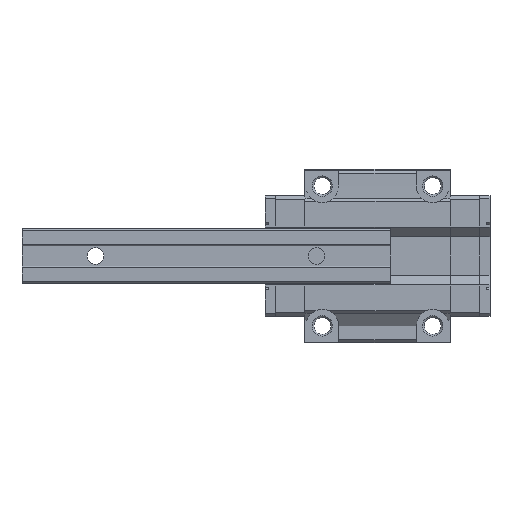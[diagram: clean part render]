
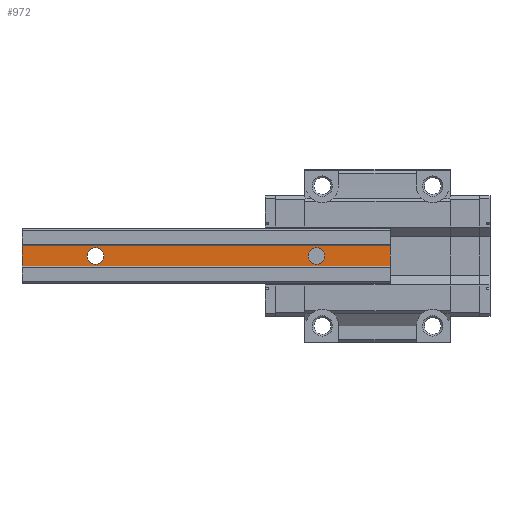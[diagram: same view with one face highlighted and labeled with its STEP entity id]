
A CAD part, front view. The second image highlights one B-rep face of the part: STEP entity #972.
In plain terms, the highlighted planar face has unit normal (0, -1, 0).
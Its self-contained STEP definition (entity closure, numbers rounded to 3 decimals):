
#972 = ADVANCED_FACE( '', ( #2159, #2160, #2161 ), #2162, .T. );
#2159 = FACE_BOUND( '', #3672, .T. );
#2160 = FACE_BOUND( '', #3673, .T. );
#2161 = FACE_OUTER_BOUND( '', #3674, .T. );
#2162 = PLANE( '', #3675 );
#3672 = EDGE_LOOP( '', ( #6014 ) );
#3673 = EDGE_LOOP( '', ( #6015 ) );
#3674 = EDGE_LOOP( '', ( #6016, #6017, #6018, #6019 ) );
#3675 = AXIS2_PLACEMENT_3D( '', #6020, #6021, #6022 );
#6014 = ORIENTED_EDGE( '', *, *, #9830, .F. );
#6015 = ORIENTED_EDGE( '', *, *, #9831, .F. );
#6016 = ORIENTED_EDGE( '', *, *, #9832, .F. );
#6017 = ORIENTED_EDGE( '', *, *, #9833, .F. );
#6018 = ORIENTED_EDGE( '', *, *, #9834, .T. );
#6019 = ORIENTED_EDGE( '', *, *, #9835, .T. );
#6020 = CARTESIAN_POINT( '', ( 50., 0.5, -2.75 ) );
#6021 = DIRECTION( '', ( 0., -1., 0. ) );
#6022 = DIRECTION( '', ( 0., 0., -1. ) );
#9830 = EDGE_CURVE( '', #12078, #12078, #12079, .T. );
#9831 = EDGE_CURVE( '', #12080, #12080, #12081, .T. );
#9832 = EDGE_CURVE( '', #12082, #12083, #12084, .T. );
#9833 = EDGE_CURVE( '', #12085, #12082, #12086, .T. );
#9834 = EDGE_CURVE( '', #12085, #12087, #12088, .T. );
#9835 = EDGE_CURVE( '', #12087, #12083, #12089, .T. );
#12078 = VERTEX_POINT( '', #15168 );
#12079 = CIRCLE( '', #15169, 2.25 );
#12080 = VERTEX_POINT( '', #15170 );
#12081 = CIRCLE( '', #15171, 2.25 );
#12082 = VERTEX_POINT( '', #15172 );
#12083 = VERTEX_POINT( '', #15173 );
#12084 = LINE( '', #15174, #15175 );
#12085 = VERTEX_POINT( '', #15176 );
#12086 = LINE( '', #15177, #15178 );
#12087 = VERTEX_POINT( '', #15179 );
#12088 = LINE( '', #15180, #15181 );
#12089 = LINE( '', #15182, #15183 );
#15168 = CARTESIAN_POINT( '', ( -30., 0.5, -2.25 ) );
#15169 = AXIS2_PLACEMENT_3D( '', #17705, #17706, #17707 );
#15170 = CARTESIAN_POINT( '', ( 30., 0.5, -2.25 ) );
#15171 = AXIS2_PLACEMENT_3D( '', #17708, #17709, #17710 );
#15172 = CARTESIAN_POINT( '', ( -50., 0.5, -2.75 ) );
#15173 = CARTESIAN_POINT( '', ( -50., 0.5, 2.75 ) );
#15174 = CARTESIAN_POINT( '', ( -50., 0.5, -2.75 ) );
#15175 = VECTOR( '', #17711, 1000. );
#15176 = CARTESIAN_POINT( '', ( 50., 0.5, -2.75 ) );
#15177 = CARTESIAN_POINT( '', ( 50., 0.5, -2.75 ) );
#15178 = VECTOR( '', #17712, 1000. );
#15179 = CARTESIAN_POINT( '', ( 50., 0.5, 2.75 ) );
#15180 = CARTESIAN_POINT( '', ( 50., 0.5, -2.75 ) );
#15181 = VECTOR( '', #17713, 1000. );
#15182 = CARTESIAN_POINT( '', ( 50., 0.5, 2.75 ) );
#15183 = VECTOR( '', #17714, 1000. );
#17705 = CARTESIAN_POINT( '', ( -30., 0.5, 0. ) );
#17706 = DIRECTION( '', ( 0., -1., 0. ) );
#17707 = DIRECTION( '', ( 0., 0., -1. ) );
#17708 = CARTESIAN_POINT( '', ( 30., 0.5, 0. ) );
#17709 = DIRECTION( '', ( 0., -1., 0. ) );
#17710 = DIRECTION( '', ( 0., 0., -1. ) );
#17711 = DIRECTION( '', ( 0., 0., 1. ) );
#17712 = DIRECTION( '', ( -1., 0., 0. ) );
#17713 = DIRECTION( '', ( 0., 0., 1. ) );
#17714 = DIRECTION( '', ( -1., 0., 0. ) );
